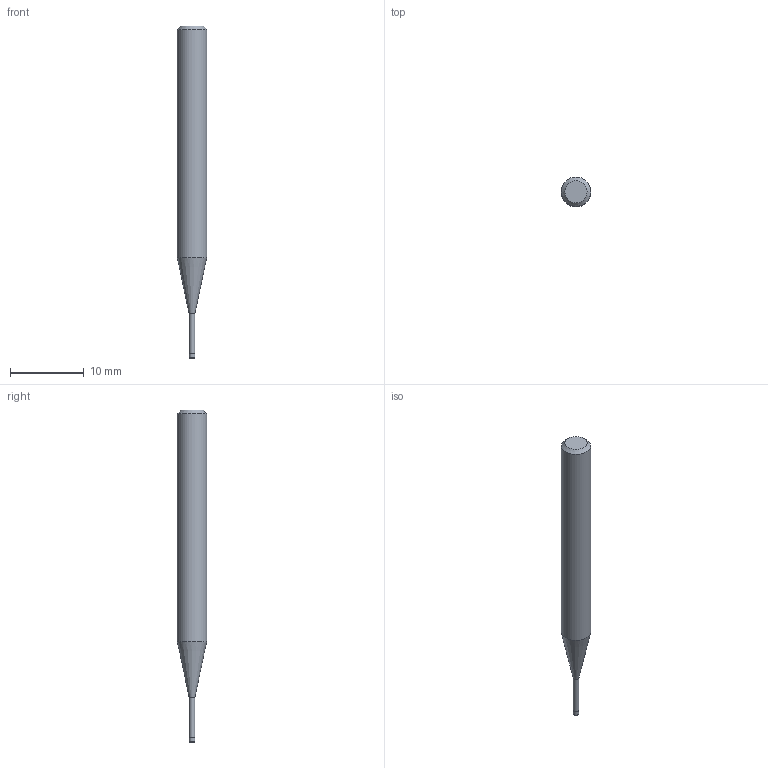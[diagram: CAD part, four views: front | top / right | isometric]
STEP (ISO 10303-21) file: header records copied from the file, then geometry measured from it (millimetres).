
FILE_DESCRIPTION((''),'2;1');
FILE_NAME('C:\Users\nsx150\AppData\Local\Temp\Mastercam 2021\3SYKECWX22\TEMP.step','2021-04-22T09:38:17',(''),(''),'STEP Write','Mastercam 2021 ... CNC Software, Inc.','');
FILE_SCHEMA(('AUTOMOTIVE_DESIGN'));
Length unit declared in the file: millimetre
Products named in the file (1): None
Bounding box: 4 x 4 x 45 mm (x, y, z)
Volume: 434.8 mm3; surface area: 476.9 mm2
Topology: 2 solids, 2 shells, 10 faces, 14 edges, 8 vertices
Faces by surface type: plane 4, cylinder 3, cone 2, torus 1
Full cylindrical faces by diameter (mm): 0.76 x1, 0.8 x1, 4 x1
Entity records: 232 total; most frequent: DIRECTION 40, CARTESIAN_POINT 28, AXIS2_PLACEMENT_3D 20, ORIENTED_EDGE 16, EDGE_LOOP 16, STYLED_ITEM 13, ADVANCED_FACE 10, FACE_BOUND 10
